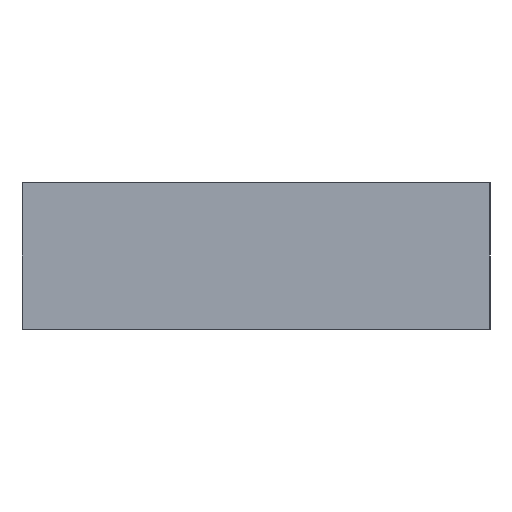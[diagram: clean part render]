
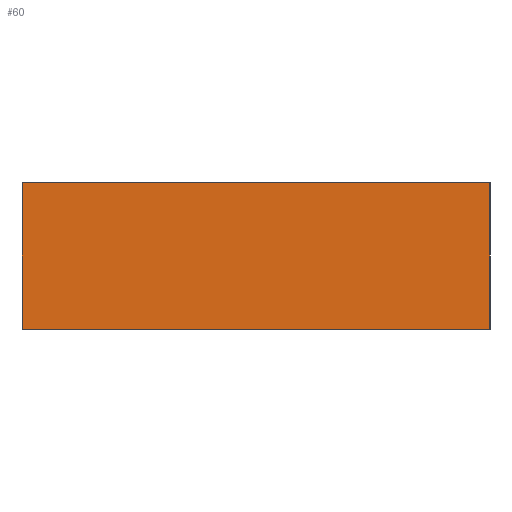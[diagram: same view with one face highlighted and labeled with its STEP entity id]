
A CAD part, left-side view. The second image highlights one B-rep face of the part: STEP entity #60.
In plain terms, the highlighted planar face has unit normal (-1, 0, 0).
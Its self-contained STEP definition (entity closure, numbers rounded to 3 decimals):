
#60 = ADVANCED_FACE( '', ( #120 ), #121, .F. );
#120 = FACE_OUTER_BOUND( '', #173, .T. );
#121 = PLANE( '', #174 );
#173 = EDGE_LOOP( '', ( #267, #268, #269, #270 ) );
#174 = AXIS2_PLACEMENT_3D( '', #271, #272, #273 );
#267 = ORIENTED_EDGE( '', *, *, #331, .T. );
#268 = ORIENTED_EDGE( '', *, *, #332, .F. );
#269 = ORIENTED_EDGE( '', *, *, #296, .F. );
#270 = ORIENTED_EDGE( '', *, *, #311, .T. );
#271 = CARTESIAN_POINT( '', ( -5., 0., 5. ) );
#272 = DIRECTION( '', ( 1., 0., 0. ) );
#273 = DIRECTION( '', ( 0., 0., -1. ) );
#296 = EDGE_CURVE( '', #338, #340, #341, .T. );
#311 = EDGE_CURVE( '', #338, #365, #367, .T. );
#331 = EDGE_CURVE( '', #365, #392, #393, .T. );
#332 = EDGE_CURVE( '', #340, #392, #394, .T. );
#338 = VERTEX_POINT( '', #400 );
#340 = VERTEX_POINT( '', #403 );
#341 = LINE( '', #404, #405 );
#365 = VERTEX_POINT( '', #438 );
#367 = LINE( '', #441, #442 );
#392 = VERTEX_POINT( '', #475 );
#393 = LINE( '', #476, #477 );
#394 = LINE( '', #478, #479 );
#400 = CARTESIAN_POINT( '', ( -5., 0., 5. ) );
#403 = CARTESIAN_POINT( '', ( -5., -32., 5. ) );
#404 = CARTESIAN_POINT( '', ( -5., 0., 5. ) );
#405 = VECTOR( '', #485, 1000. );
#438 = CARTESIAN_POINT( '', ( -5., 0., -5. ) );
#441 = CARTESIAN_POINT( '', ( -5., 0., 5. ) );
#442 = VECTOR( '', #502, 1000. );
#475 = CARTESIAN_POINT( '', ( -5., -32., -5. ) );
#476 = CARTESIAN_POINT( '', ( -5., 0., -5. ) );
#477 = VECTOR( '', #517, 1000. );
#478 = CARTESIAN_POINT( '', ( -5., -32., 5. ) );
#479 = VECTOR( '', #518, 1000. );
#485 = DIRECTION( '', ( 0., -1., 0. ) );
#502 = DIRECTION( '', ( 0., 0., -1. ) );
#517 = DIRECTION( '', ( 0., -1., 0. ) );
#518 = DIRECTION( '', ( 0., 0., -1. ) );
